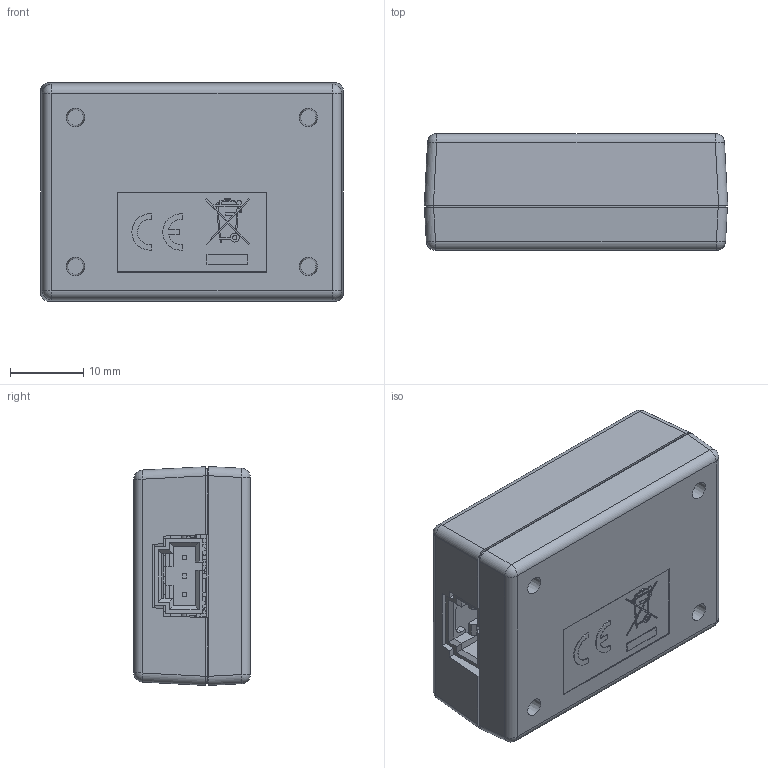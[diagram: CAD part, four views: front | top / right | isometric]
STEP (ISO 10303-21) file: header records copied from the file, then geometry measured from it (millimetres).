
FILE_DESCRIPTION(/* description */ ('Alibre Inc.'),/* implementation_level */ '2;1');
FILE_NAME(/* name */ 'export-16D4AD8D-89EC-461E-B44D-9665ADB6599E',/* time_stamp */ '2022-11-16T10:05:37-07:00',/* author */ (''),/* organization */ (''),/* preprocessor_version */ 'ST-DEVELOPER v17',/* originating_system */ 'Alibre',/* authorisation */ '');
FILE_SCHEMA (('CONFIG_CONTROL_DESIGN'));
Length unit declared in the file: centimetre
Products named in the file (106): Board; Extruded; 5856724544; 5856724352; R17; 5856724160; C19; User_Library-TSSOP-20-1_TSSOP-20_Body_1; User_Library-TSSOP-20-1_TSSOP-20_Pins_1; User_Library-TSSOP-20-1; U2; 5856723968; 5856723776; R14; Cylinder; 5855116544; 5855116160; 5855115968; 5855115584; 5855115392; Y1; 5856723392; 5856723584; C23; C22; User_Library-SOIC-16-1; U3; 5855115200; Q1; User_Library-SOT-23-1_1_1; User_Library-SOT-23-1_2_1; User_Library-SOT-23-1_3_1; User_Library-SOT-23-1_4_1; User_Library-SOT-23-1_5_1; User_Library-SOT-23-1; U1; RV1; 5855117120; 5856723200; R16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
Bounding box: 41.36 x 15.86 x 29.84 mm (x, y, z)
Volume: 9124.4 mm3; surface area: 13979.9 mm2
Topology: 113 solids, 113 shells, 2081 faces, 5250 edges, 3430 vertices
Faces by surface type: plane 1683, cylinder 341, bspline 29, cone 20, sphere 8
Full cylindrical faces by diameter (mm): 0.6 x3, 0.711 x2, 0.965 x3, 1.321 x4, 3.124 x4, 3.175 x4, 4 x2, 4.8 x2
Entity records: 54727 total; most frequent: CARTESIAN_POINT 10281, ORIENTED_EDGE 6926, DIRECTION 5762, EDGE_CURVE 3463, VECTOR 2682, LINE 2682, VERTEX_POINT 2280, AXIS2_PLACEMENT_3D 1994
